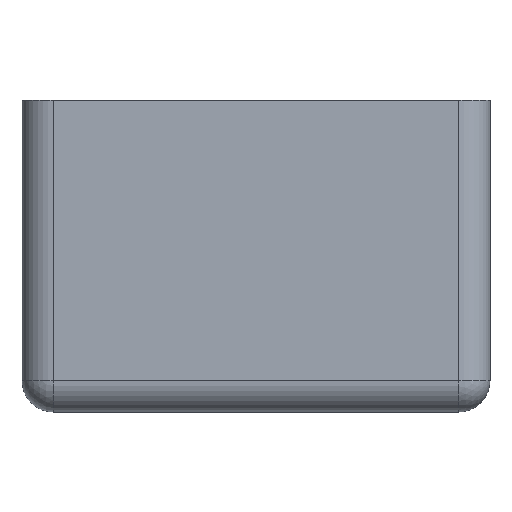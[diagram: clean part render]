
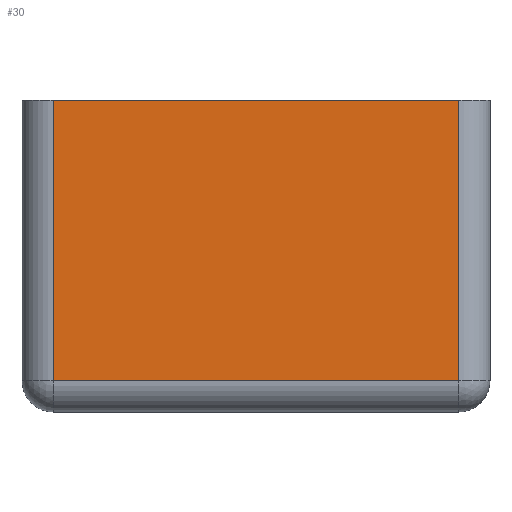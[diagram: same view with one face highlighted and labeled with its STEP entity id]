
A CAD part, left-side view. The second image highlights one B-rep face of the part: STEP entity #30.
In plain terms, the highlighted planar face has unit normal (-1, 0, 0).
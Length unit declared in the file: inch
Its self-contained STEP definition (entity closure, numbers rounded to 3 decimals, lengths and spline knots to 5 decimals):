
#30 = ADVANCED_FACE ( 'NONE', ( #321 ), #320, .T. ) ;
#31 = ORIENTED_EDGE ( 'NONE', *, *, #32, .T. ) ;
#32 = EDGE_CURVE ( 'NONE', #71, #49, #189, .T. ) ;
#34 = EDGE_LOOP ( 'NONE', ( #84, #72, #74, #31 ) ) ;
#39 = VERTEX_POINT ( 'NONE', #267 ) ;
#40 = EDGE_CURVE ( 'NONE', #39, #49, #266, .T. ) ;
#49 = VERTEX_POINT ( 'NONE', #306 ) ;
#50 = VERTEX_POINT ( 'NONE', #305 ) ;
#70 = EDGE_CURVE ( 'NONE', #50, #71, #148, .T. ) ;
#71 = VERTEX_POINT ( 'NONE', #560 ) ;
#72 = ORIENTED_EDGE ( 'NONE', *, *, #73, .T. ) ;
#73 = EDGE_CURVE ( 'NONE', #39, #50, #441, .T. ) ;
#74 = ORIENTED_EDGE ( 'NONE', *, *, #70, .T. ) ;
#84 = ORIENTED_EDGE ( 'NONE', *, *, #40, .F. ) ;
#147 = CARTESIAN_POINT ( 'NONE',  ( -0.3775, -0.9375, -1.125 ) ) ;
#148 = LINE ( 'NONE', #147, #522 ) ;
#182 = DIRECTION ( 'NONE',  ( 0., 0., 1. ) ) ;
#183 = VECTOR ( 'NONE', #182, 39.37008 ) ;
#184 = CARTESIAN_POINT ( 'NONE',  ( -0.3775, -0.8125, -1.25 ) ) ;
#185 = DIRECTION ( 'NONE',  ( 0., -1., 0. ) ) ;
#186 = DIRECTION ( 'NONE',  ( -1., 0., 0. ) ) ;
#187 = CARTESIAN_POINT ( 'NONE',  ( -0.3775, 0.9375, -1.25 ) ) ;
#188 = AXIS2_PLACEMENT_3D ( 'NONE', #187, #186, #185 ) ;
#189 = LINE ( 'NONE', #184, #183 ) ;
#263 = DIRECTION ( 'NONE',  ( 0., -1., 0. ) ) ;
#264 = VECTOR ( 'NONE', #263, 39.37008 ) ;
#265 = CARTESIAN_POINT ( 'NONE',  ( -0.3775, 0.9375, 0. ) ) ;
#266 = LINE ( 'NONE', #265, #264 ) ;
#267 = CARTESIAN_POINT ( 'NONE',  ( -0.3775, 0.8125, 0. ) ) ;
#305 = CARTESIAN_POINT ( 'NONE',  ( -0.3775, 0.8125, -1.125 ) ) ;
#306 = CARTESIAN_POINT ( 'NONE',  ( -0.3775, -0.8125, 0. ) ) ;
#320 = PLANE ( 'NONE',  #188 ) ;
#321 = FACE_OUTER_BOUND ( 'NONE', #34, .T. ) ;
#383 = DIRECTION ( 'NONE',  ( 0., 0., -1. ) ) ;
#384 = VECTOR ( 'NONE', #383, 39.37008 ) ;
#385 = CARTESIAN_POINT ( 'NONE',  ( -0.3775, 0.8125, -1.25 ) ) ;
#407 = DIRECTION ( 'NONE',  ( 0., -1., 0. ) ) ;
#441 = LINE ( 'NONE', #385, #384 ) ;
#522 = VECTOR ( 'NONE', #407, 39.37008 ) ;
#560 = CARTESIAN_POINT ( 'NONE',  ( -0.3775, -0.8125, -1.125 ) ) ;
